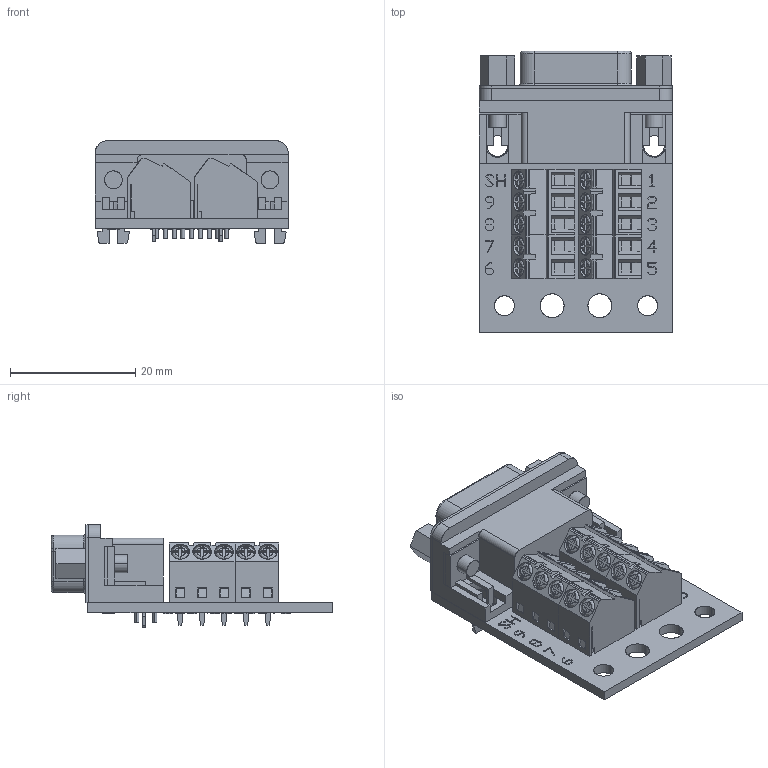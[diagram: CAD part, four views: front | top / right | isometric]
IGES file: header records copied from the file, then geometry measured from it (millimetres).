
Start section: SolidWorks IGES file using analytic representation for surfaces
Global section: file name: W:\end-user\products\brk\brksd\brksd9m\3dmodel\2021-08-26_rev_a-3\render\igs\brksd9m-r_rev_a.igs; native system: SolidWorks 2018; preprocessor: SolidWorks 2018; author: leviroy; date: 210826.135824; units: millimetre
Bounding box: 30.99 x 44.96 x 16.38 mm (x, y, z)
Surface area: 10133.2 mm2 (no closed solid volume)
Topology: 0 solids, 0 shells, 2190 faces, 16368 edges, 16364 vertices
Faces by surface type: bspline 1915, revolution 275
